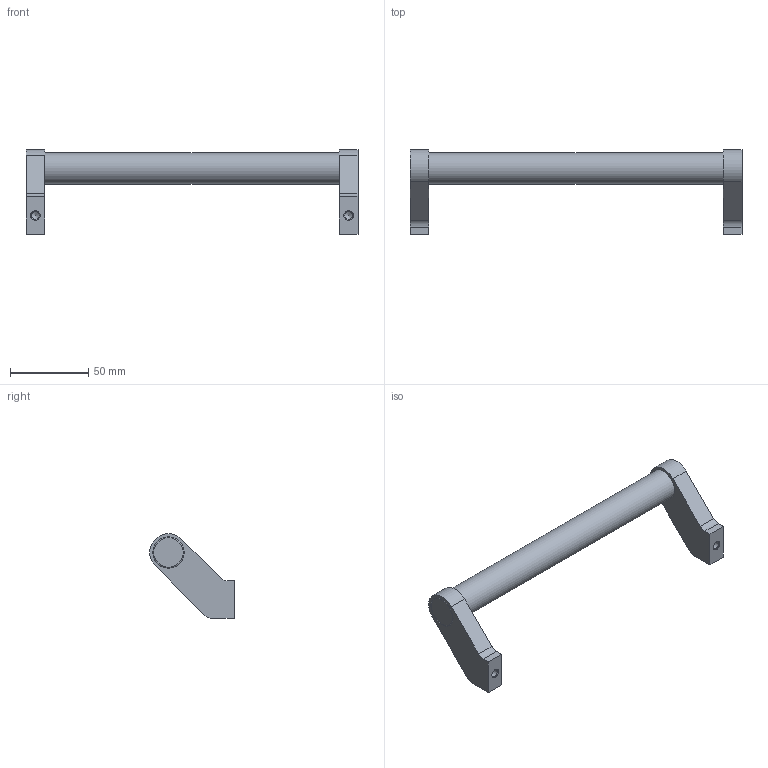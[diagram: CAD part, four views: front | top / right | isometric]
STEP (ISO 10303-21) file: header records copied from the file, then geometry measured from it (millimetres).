
FILE_DESCRIPTION( ( 'STEP AP203' ), '1' );
FILE_NAME( 'C:/Temp/Ganter_Step_05_03_2020/data/1_2/gn333/Tubular handle GN 333-20-200-A-EL.stp', '2020-03-05T10:16:08', ( 'License CC BY-ND 4.0' ), ( 'CADENAS' ), ' ', 'PARTsolutions', ' ' );
FILE_SCHEMA( ( 'CONFIG_CONTROL_DESIGN' ) );
Length unit declared in the file: millimetre
Products named in the file (1): _Tubular handle GN 333-20-200-A-EL
Bounding box: 212 x 53.95 x 53.95 mm (x, y, z)
Volume: 95309.9 mm3; surface area: 21918 mm2
Topology: 1 solids, 1 shells, 33 faces, 77 edges, 50 vertices
Faces by surface type: plane 16, cylinder 11, cone 4, torus 2
Full cylindrical faces by diameter (mm): 4.917 x2, 20 x3
Entity records: 906 total; most frequent: DIRECTION 156, CARTESIAN_POINT 144, ORIENTED_EDGE 124, EDGE_CURVE 62, AXIS2_PLACEMENT_3D 60, EDGE_LOOP 48, VERTEX_POINT 48, FACE_OUTER_BOUND 40
